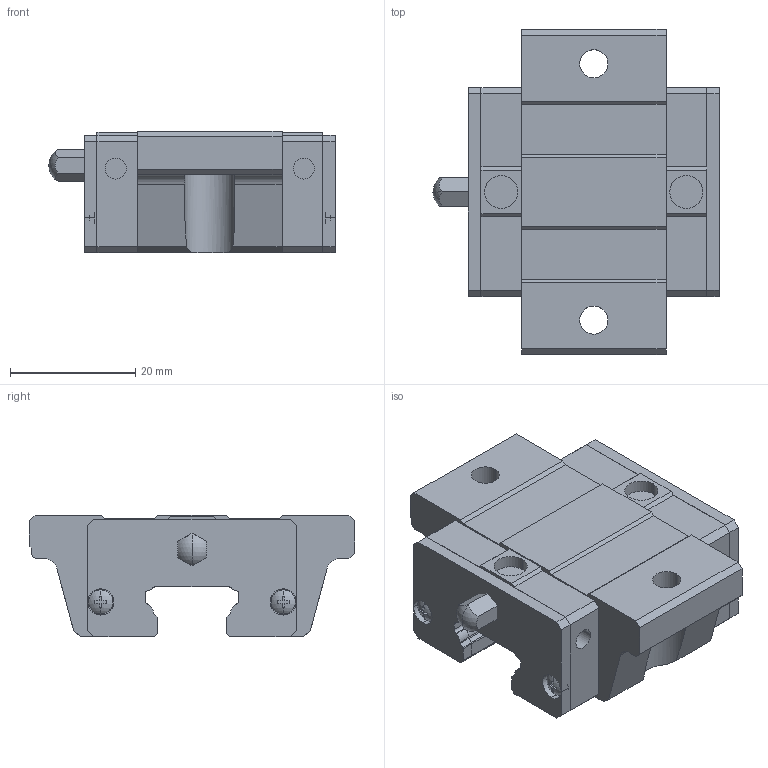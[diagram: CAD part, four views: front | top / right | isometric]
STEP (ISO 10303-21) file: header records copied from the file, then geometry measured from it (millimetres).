
FILE_DESCRIPTION(('starvars output'),'2;1');
FILE_NAME('cv20190626224005000075227.stp','22:40:05 2019/06/26',( 'Thomas Industrial Network Germany GmbH'),( 'Thomas Industrial Network Germany GmbH'),'unknown preprocess','ACIS' ,'unknown authorization');
FILE_SCHEMA(('CONFIG_CONTROL_DESIGN {UNKNOWN IMPLEMENTATION LEVEL}'));
Length unit declared in the file: millimetre
Products named in the file (10): PRODUCT_ID_1; PRODUCT_ID_2; PRODUCT_ID_3; PRODUCT_ID_4; PRODUCT_ID_5; PRODUCT_ID_6; PRODUCT_ID_7; PRODUCT_ID_8; PRODUCT_ID_9; PRODUCT_ID_10
Bounding box: 45.8 x 52 x 19.5 mm (x, y, z)
Volume: 25570.5 mm3; surface area: 12357 mm2
Topology: 10 solids, 10 shells, 352 faces, 957 edges, 632 vertices
Faces by surface type: plane 205, cylinder 129, sphere 10, cone 8
Entity records: 11322 total; most frequent: ORIENTED_EDGE 1922, CARTESIAN_POINT 1779, DIRECTION 1726, EDGE_CURVE 957, VERTEX_POINT 632, AXIS2_PLACEMENT_3D 579, VECTOR 568, LINE 568
